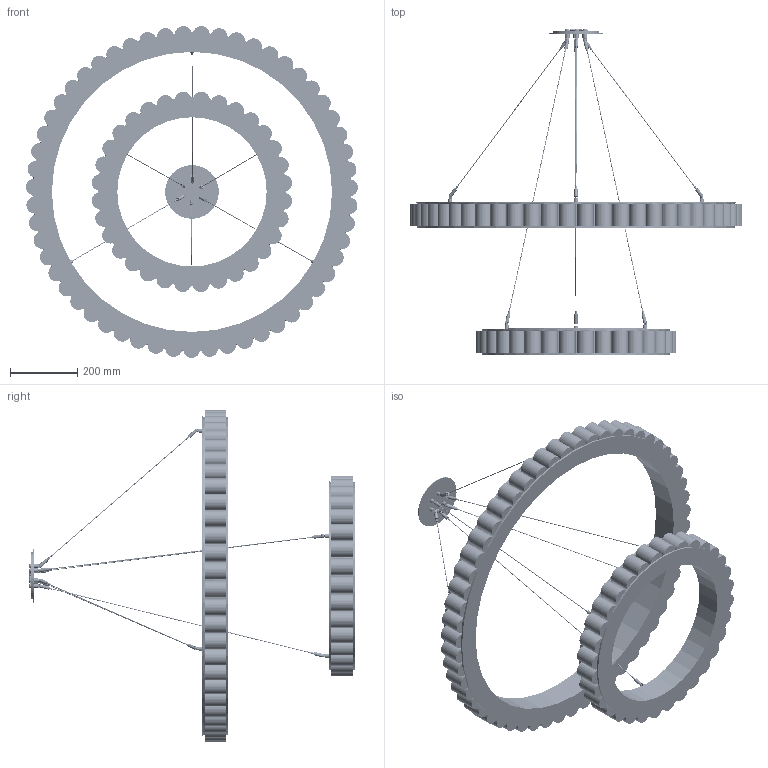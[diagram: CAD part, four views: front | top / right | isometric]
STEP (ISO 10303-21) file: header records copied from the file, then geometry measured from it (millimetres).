
FILE_DESCRIPTION (( 'STEP AP203' ), '1' );
FILE_NAME ('CTO-01-045-02_AVALON Halo chandelier with ceiling mounting plate.STEP', '2021-04-22T11:28:30', ( '' ), ( '' ), 'SwSTEP 2.0', 'SolidWorks 2020', '' );
FILE_SCHEMA (( 'CONFIG_CONTROL_DESIGN' ));
Length unit declared in the file: millimetre
Products named in the file (119): PCTO 06 0028; Gaxaly_Pendant_600_Rolled_Backing_A; Gaxaly_Pendant_1000_Lower_Ring_A; PCTO 05 0141; Avalon_Medium_Pendant_Assembly_A_Body only; PCTO 02 0794; PCTO 02 0163_twin top; PCTO 02 0163_Twin bottom; Gaxaly_Pendant_1000_Top_Ring_A; PCTO 02 0793; PCTO 01 0146_600; PCTO 05 0145; Gaxaly_Pendant_1000_Rolled_Backing_A; PCTO 02 0765; PCTO 02 0764; PCTO 05 0136; CTO-01-045-02_AVALON Halo chandelier with ceiling mounting plate; PCTO 02 0782 & PCTO 02 0783_Twin; Gaxaly_Pendant_600_Top_Ring_A; M6 x 14 DH SO; Gaxaly_Pendant_1000_Light_Assembly_A_Body only; PCTO 05 0137; PCTO 02 0784; PCTO 05 0144_M4X8mm; PCTO 05 0146 Part2; Gaxaly_Pendant_600_Lower_Ring_A; PCTO 05 0146 Part1; PCTO 05 0002; PCTO 09 0144; PCTO 01 0146_1000; PCTO 01 0149; PCTO 09 0146
Assembly tree (451 placements, depth 4):
  CTO-01-045-02_AVALON Halo chandelier with ceiling mounting plate
    Avalon_Medium_Pendant_Assembly_A_Body only
      PCTO 02 0794
        Gaxaly_Pendant_600_Lower_Ring_A
        Gaxaly_Pendant_600_Rolled_Backing_A
        Gaxaly_Pendant_600_Top_Ring_A
      PCTO 05 0141  x32
      PCTO 09 0146
      PCTO 06 0028
        PCTO 06 0028
        PCTO 05 0137
      PCTO 06 0028
        PCTO 06 0028
        PCTO 05 0137
      PCTO 06 0028
        PCTO 06 0028
        PCTO 05 0137
      PCTO 06 0028
        PCTO 06 0028
        PCTO 05 0137
      PCTO 06 0028
        PCTO 06 0028
        PCTO 05 0137
      PCTO 06 0028
        PCTO 06 0028
        PCTO 05 0137
      PCTO 06 0028
        PCTO 06 0028
        PCTO 05 0137
      PCTO 06 0028
        PCTO 06 0028
        PCTO 05 0137
      PCTO 06 0028
        PCTO 06 0028
        PCTO 05 0137
      PCTO 06 0028
        PCTO 06 0028
        PCTO 05 0137
      PCTO 06 0028
        PCTO 06 0028
        PCTO 05 0137
      PCTO 06 0028
        PCTO 06 0028
        PCTO 05 0137
      PCTO 06 0028
        PCTO 06 0028
        PCTO 05 0137
      PCTO 06 0028
        PCTO 06 0028
        PCTO 05 0137
      PCTO 06 0028
        PCTO 06 0028
        PCTO 05 0137
      PCTO 06 0028
        PCTO 06 0028
        PCTO 05 0137
      PCTO 06 0028
        PCTO 06 0028
        PCTO 05 0137
      PCTO 06 0028
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Bounding box: 989.51 x 970.77 x 989.24 mm (x, y, z)
Volume: 16366334.8 mm3; surface area: 4536678.2 mm2
Topology: 360 solids, 360 shells, 12671 faces, 30399 edges, 19712 vertices
Faces by surface type: plane 7098, cylinder 4209, cone 865, bspline 427, torus 72
Entity records: 99821 total; most frequent: CARTESIAN_POINT 23825, DIRECTION 11926, ORIENTED_EDGE 10628, EDGE_CURVE 5314, AXIS2_PLACEMENT_3D 4200, VECTOR 3526, LINE 3526, VERTEX_POINT 3454
